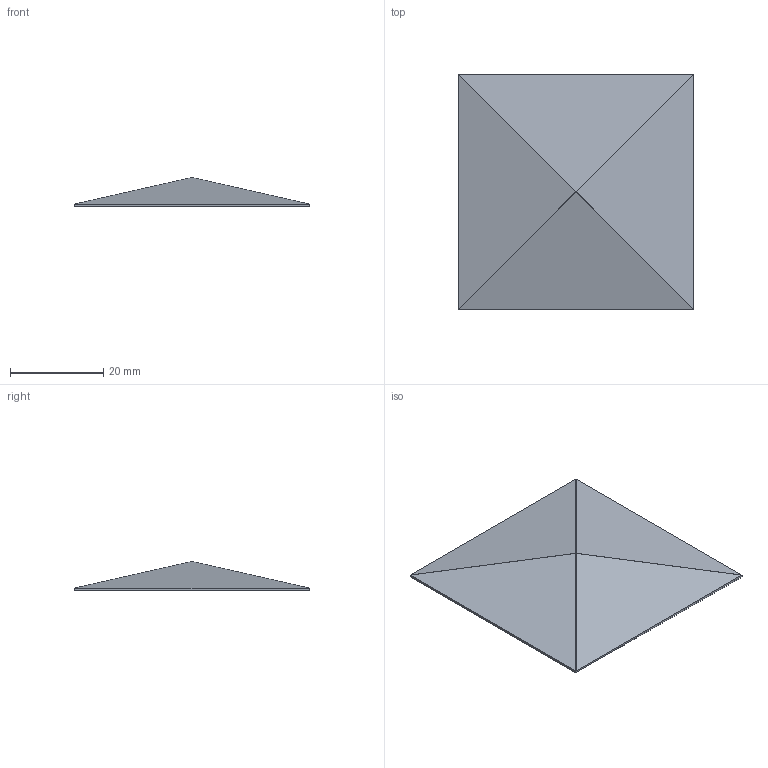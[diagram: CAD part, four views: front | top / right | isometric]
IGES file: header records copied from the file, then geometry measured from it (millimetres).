
Start section: C
Global section: file name: 052-50.igs; native system: By Siemens PLM Incorporated; preprocessor: XPlus GENERIC/IGES 16.0.42; author: Author; organization: Title; date: 20231129.113252; units: millimetre
Bounding box: 50.3 x 50.3 x 6.2 mm (x, y, z)
Surface area: 5617 mm2 (no closed solid volume)
Topology: 0 solids, 0 shells, 32 faces, 149 edges, 148 vertices
Faces by surface type: bspline 32
